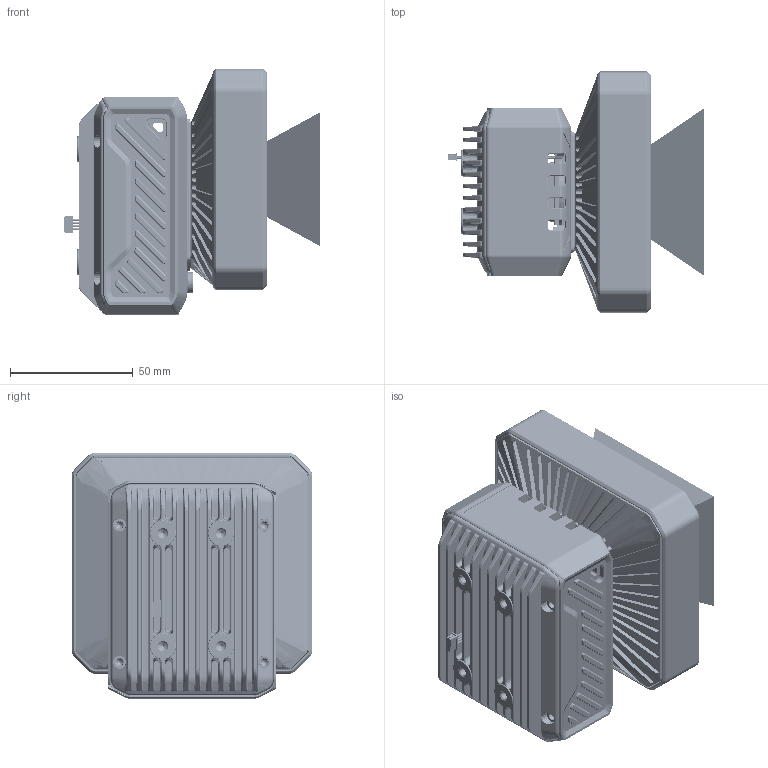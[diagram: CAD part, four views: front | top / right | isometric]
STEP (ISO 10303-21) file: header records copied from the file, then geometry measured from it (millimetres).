
FILE_DESCRIPTION((''),'2;1');
FILE_NAME('M12-SC6000-RGBW_ASM','2023-11-16T20:16:00',('qiaoxuan5'),(''),'CREO PARAMETRIC BY PTC INC, 2020044','CREO PARAMETRIC BY PTC INC, 2020044','');
FILE_SCHEMA(('CONFIG_CONTROL_DESIGN','SHAPE_APPEARANCE_LAYERS_GROUPS'));
Products named in the file (35): DE-13-001623; DE-13-001625_ASM; DE-17-002742; DE-13-001624; DE-13-001626_ASM; DE-18-000193; DE-19-008737; DE-20-021328_ASM; MV26025REV10; 101301808; 101301594; ST-D5X6_4D3_3X1_3-F2X6-CU-SMT; MV26025REV10_ASM; MV26025REV10-DB; 101300921; 101301058; 100602176; MV26025REV10-DB_ASM; DE-13-001406; DE-13-001405_ASM; DE-13-001080; DE-13-001083_ASM; DE-19-001010; DE-12-004056; DE-12-004057; BHYB0640-12S-3D-500W; MV26025REV10-TOF; 101109651; 101303593; MV26025REV10-TOF_ASM; DE-17-000199; DE-17-002743; SC-PSF0M3X6-NI; SC-PM2X6B-JMP; M12-SC6000-RGBW_ASM
Assembly tree (62 placements, depth 3):
  M12-SC6000-RGBW_ASM
    DE-13-001625_ASM
      DE-13-001623
    DE-17-002742
    DE-13-001626_ASM
      DE-13-001624
    DE-20-021328_ASM
      DE-18-000193
      DE-19-008737
    MV26025REV10_ASM
      MV26025REV10
      101301808
      101301594  x2
      ST-D5X6_4D3_3X1_3-F2X6-CU-SMT  x4
    MV26025REV10-DB_ASM
      MV26025REV10-DB
      101300921
      101301058
      100602176  x8
    DE-13-001405_ASM
      DE-13-001406
    DE-13-001083_ASM
      DE-13-001080
    DE-19-001010
    DE-12-004056
    DE-12-004057  x8
    BHYB0640-12S-3D-500W
    MV26025REV10-TOF_ASM
      MV26025REV10-TOF
      101109651
      101303593
    DE-17-000199
    DE-17-002743
    SC-PSF0M3X6-NI  x8
    SC-PM2X6B-JMP  x4
Bounding box: 104.51 x 98 x 100.4 mm (x, y, z)
Volume: 209614 mm3; surface area: 209231 mm2
Topology: 54 solids, 174 shells, 11952 faces, 33219 edges, 21357 vertices
Faces by surface type: plane 5732, cylinder 2991, bspline 1137, cone 896, extrusion 668, torus 450, sphere 46, revolution 32
Entity records: 712965 total; most frequent: CARTESIAN_POINT 420088, ORIENTED_EDGE 48958, DIRECTION 45565, EDGE_CURVE 26323, VERTEX_POINT 17023, PRESENTATION_STYLE_ASSIGNMENT 16873, STYLED_ITEM 15753, AXIS2_PLACEMENT_3D 15522
